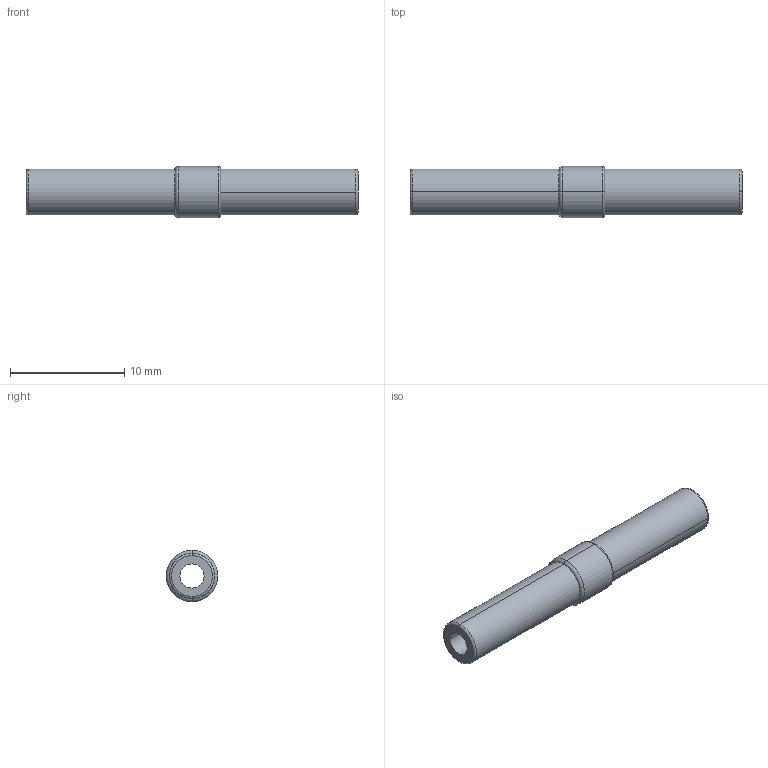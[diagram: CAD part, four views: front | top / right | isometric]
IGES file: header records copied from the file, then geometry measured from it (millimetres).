
Global section: file name: No Iges File Name specified; native system: AutoDesk Inventor R11.0; preprocessor: AutoDesk Inventor Iges Exporter R11.0; author: No Author specified; organization: No Organization specified; date: 20120321.163535; units: millimetre
Bounding box: 29 x 4.5 x 4.5 mm (x, y, z)
Volume: 276.8 mm3; surface area: 581.7 mm2
Topology: 1 solids, 1 shells, 19 faces, 42 edges, 26 vertices
Faces by surface type: cylinder 6, torus 6, plane 3, revolution 2, bspline 2
